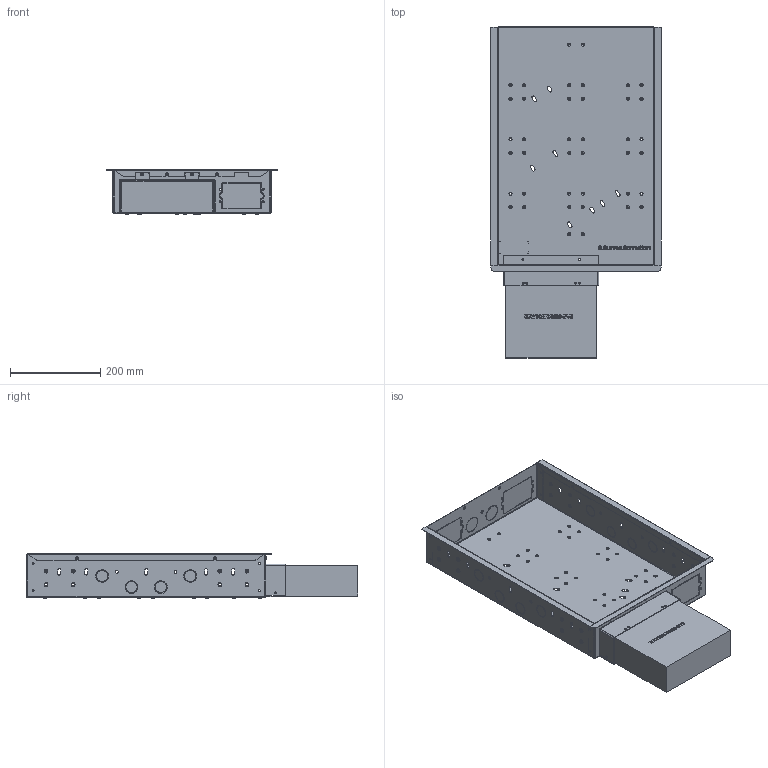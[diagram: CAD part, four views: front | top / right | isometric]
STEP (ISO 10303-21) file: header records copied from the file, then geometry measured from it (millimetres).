
FILE_DESCRIPTION (( 'STEP AP214' ), '1' );
FILE_NAME ('WB21 WITH WATTBOX BRACKETS - ASSEMBLY.STEP', '2023-01-04T12:11:25', ( '' ), ( '' ), 'SwSTEP 2.0', 'SolidWorks 2019', '' );
FILE_SCHEMA (( 'AUTOMOTIVE_DESIGN' ));
Length unit declared in the file: millimetre
Products named in the file (7): WB-PS-052-42 VERTICAL TRIM STRIP 42_42 SIDE; WB-PS-451-42 WALL BOX 42; WB-PS-051 HORZONTAL TRIM STRIP_SB TOP; WB-PS-458 EXPANSION BOX FRONT; WB21 WITH WATTBOX BRACKETS - ASSEMBLY; 00 WATTBOX; WB-PS-457 EXPANSION BOX BACK
Assembly tree (7 placements, depth 2):
  WB21 WITH WATTBOX BRACKETS - ASSEMBLY
    WB-PS-451-42 WALL BOX 42
    WB-PS-051 HORZONTAL TRIM STRIP_SB TOP
    WB-PS-052-42 VERTICAL TRIM STRIP 42_42 SIDE  x2
    WB-PS-457 EXPANSION BOX BACK
    WB-PS-458 EXPANSION BOX FRONT
    00 WATTBOX
Bounding box: 377 x 735 x 98 mm (x, y, z)
Volume: 2948858.4 mm3; surface area: 948784.4 mm2
Topology: 7 solids, 7 shells, 1823 faces, 4818 edges, 3166 vertices
Faces by surface type: plane 1120, cylinder 388, bspline 173, torus 138, cone 4
Full cylindrical faces by diameter (mm): 1 x2, 3.3 x4, 3.7 x53, 4.5 x42, 5.55 x16, 6.5 x5, 6.7 x53, 8.55 x16, 25 x8, 28 x8, 35 x2, 38 x2
Entity records: 57953 total; most frequent: CARTESIAN_POINT 15135, ORIENTED_EDGE 8554, DIRECTION 8085, EDGE_CURVE 4277, VECTOR 3037, LINE 3037, VERTEX_POINT 3006, EDGE_LOOP 2573
